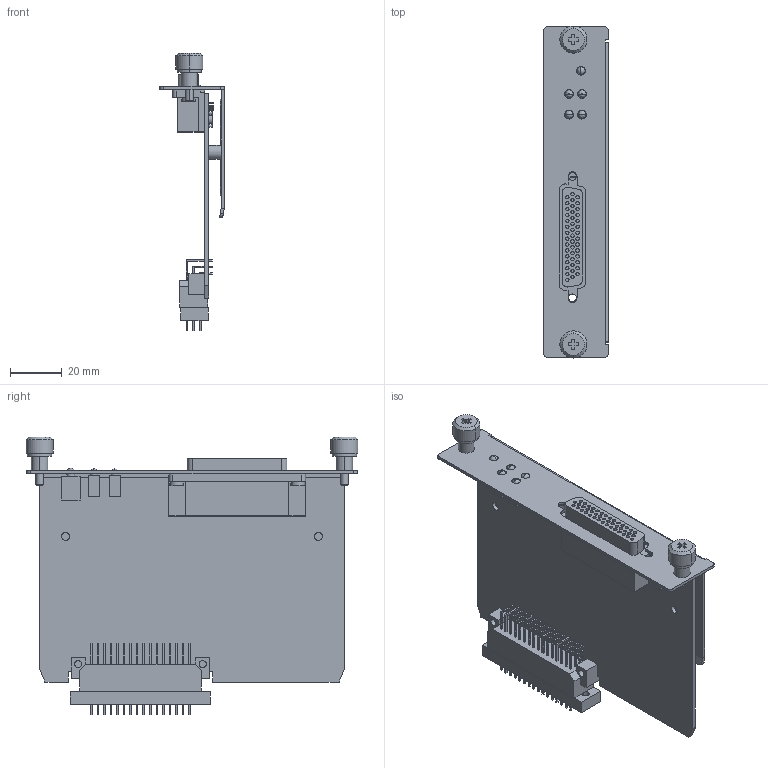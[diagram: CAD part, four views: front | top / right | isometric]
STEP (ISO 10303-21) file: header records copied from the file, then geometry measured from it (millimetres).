
FILE_DESCRIPTION((''),'2;1');
FILE_NAME('85M-5401','2013-05-29T',('David_Sung'),(''),'PRO/ENGINEER BY PARAMETRIC TECHNOLOGY CORPORATION, 2006020','PRO/ENGINEER BY PARAMETRIC TECHNOLOGY CORPORATION, 2006020','');
FILE_SCHEMA(('CONFIG_CONTROL_DESIGN'));
Length unit declared in the file: millimetre
Products named in the file (1): 85M-5401
Bounding box: 25 x 128.7 x 107.7 mm (x, y, z)
Surface area: 59959.8 mm2 (no closed solid volume)
Topology: 0 solids, 13 shells, 1988 faces, 4638 edges, 3079 vertices
Faces by surface type: plane 1462, cylinder 504, bspline 8, cone 8, torus 4, sphere 2
Entity records: 56704 total; most frequent: CARTESIAN_POINT 9919, DIRECTION 9654, ORIENTED_EDGE 9272, EDGE_CURVE 4636, VECTOR 3578, LINE 3578, VERTEX_POINT 3079, AXIS2_PLACEMENT_3D 3038
